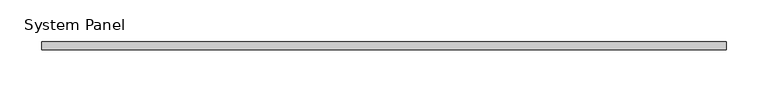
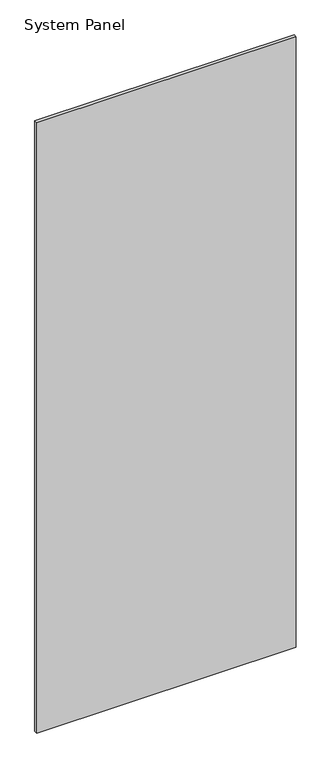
"""IFC4 building model written with IfcOpenShell, lengths in millimetres: plate geometry, System Panel : стекло_смещение_0."""

from ifc_helpers import new_model, si_unit, origin, origin_with_axes, place, context, project, spatial, polyline, outline, extrude, source, transform, mapped, element, save


def system_panel_19234d57(model_context):
    return source(origin(), model_context, "Body", "SweptSolid", [
        extrude(outline(polyline([(412.5, -5.0), (-412.5, -5.0), (-412.5, 5.0), (412.5, 5.0), (412.5, -5.0)])), origin_with_axes(), (0.0, 0.0, 1.0), 2050.0),
    ])


if __name__ == "__main__":
    model = new_model("IFC4")
    model_context = context("Model", 3, world=origin())
    ifc_project = project(units=[si_unit("LENGTHUNIT", "METRE", prefix="MILLI")], contexts=[model_context])
    site = spatial("IfcSite", under=ifc_project)
    building = spatial("IfcBuilding", under=site)
    placement = place(None, origin())
    system_panel_shape = system_panel_19234d57(model_context)
    element("IfcPlate", 1, ObjectType="System Panel : стекло_смещение_0", at=placement, inside=building, context=model_context, shape_type="MappedRepresentation", body=[
        mapped(system_panel_shape, transform((0.0, 0.0, 0.0), x_axis=(1.0, 0.0, 0.0), y_axis=(0.0, 1.0, 0.0), z_axis=(0.0, 0.0, 1.0))),
    ])
    save(model, "model.ifc")
